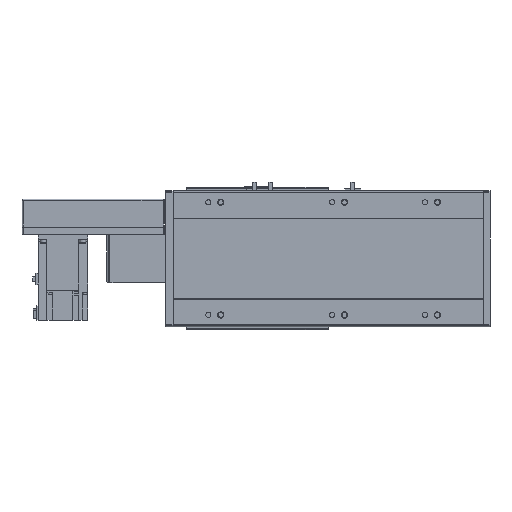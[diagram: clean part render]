
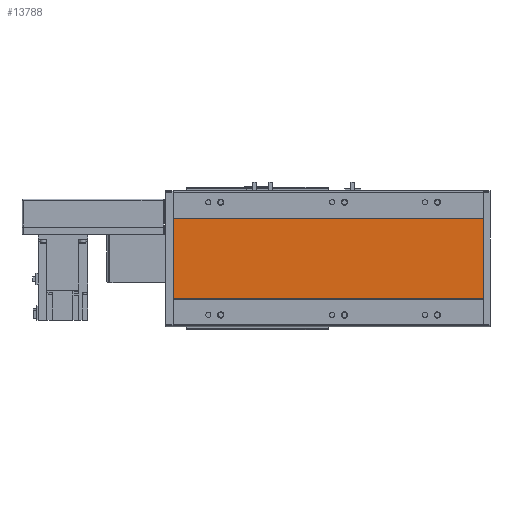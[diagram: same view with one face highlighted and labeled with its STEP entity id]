
A CAD part, front view. The second image highlights one B-rep face of the part: STEP entity #13788.
In plain terms, the highlighted planar face has unit normal (0, -1, 0).
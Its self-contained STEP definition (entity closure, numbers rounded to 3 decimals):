
#3067=ORIENTED_EDGE('',*,*,#6180,.T.);
#3068=ORIENTED_EDGE('',*,*,#6181,.F.);
#3069=ORIENTED_EDGE('',*,*,#6182,.F.);
#3070=ORIENTED_EDGE('',*,*,#6178,.T.);
#6178=EDGE_CURVE('',#7857,#7856,#9098,.T.);
#6180=EDGE_CURVE('',#7856,#7858,#9099,.T.);
#6181=EDGE_CURVE('',#7859,#7858,#9100,.T.);
#6182=EDGE_CURVE('',#7857,#7859,#9101,.T.);
#7856=VERTEX_POINT('',#22649);
#7857=VERTEX_POINT('',#22651);
#7858=VERTEX_POINT('',#22655);
#7859=VERTEX_POINT('',#22657);
#9098=LINE('',#22650,#10433);
#9099=LINE('',#22654,#10434);
#9100=LINE('',#22656,#10435);
#9101=LINE('',#22658,#10436);
#10433=VECTOR('',#18173,1000.);
#10434=VECTOR('',#18178,1000.);
#10435=VECTOR('',#18179,1000.);
#10436=VECTOR('',#18180,1000.);
#11374=EDGE_LOOP('',(#3067,#3068,#3069,#3070));
#12373=FACE_BOUND('',#11374,.T.);
#13147=PLANE('',#15034);
#13788=ADVANCED_FACE('',(#12373),#13147,.F.);
#15034=AXIS2_PLACEMENT_3D('',#22653,#18176,#18177);
#18173=DIRECTION('',(-1.,0.,0.));
#18176=DIRECTION('',(0.,1.,0.));
#18177=DIRECTION('',(0.,0.,1.));
#18178=DIRECTION('',(0.,0.,-1.));
#18179=DIRECTION('',(-1.,0.,0.));
#18180=DIRECTION('',(0.,0.,-1.));
#22649=CARTESIAN_POINT('',(12.,1.,64.294));
#22650=CARTESIAN_POINT('',(514.,1.,64.294));
#22651=CARTESIAN_POINT('',(514.,1.,64.294));
#22653=CARTESIAN_POINT('',(514.,1.,64.294));
#22654=CARTESIAN_POINT('',(12.,1.,64.294));
#22655=CARTESIAN_POINT('',(12.,1.,-64.294));
#22656=CARTESIAN_POINT('',(514.,1.,-64.294));
#22657=CARTESIAN_POINT('',(514.,1.,-64.294));
#22658=CARTESIAN_POINT('',(514.,1.,64.294));
